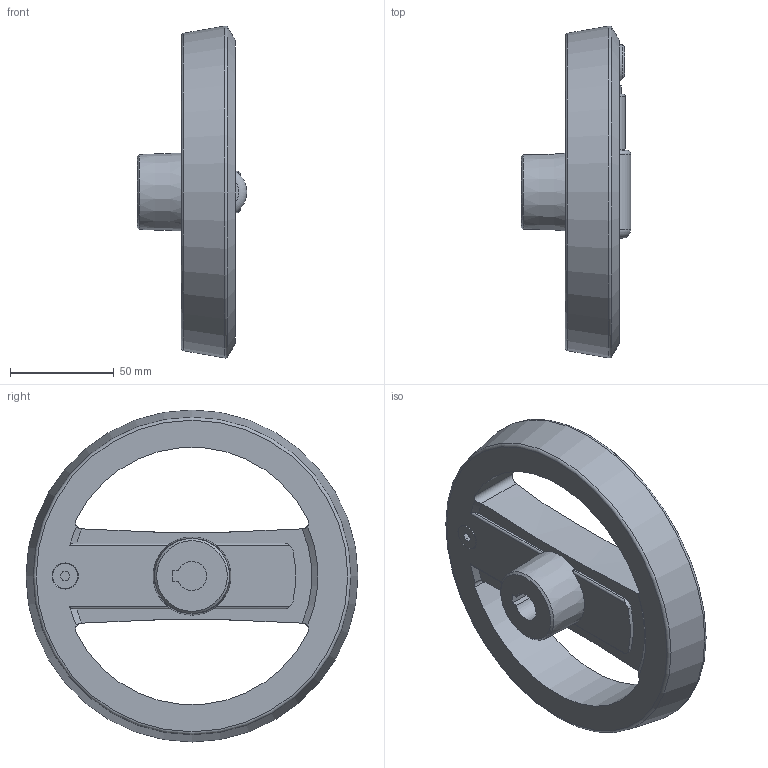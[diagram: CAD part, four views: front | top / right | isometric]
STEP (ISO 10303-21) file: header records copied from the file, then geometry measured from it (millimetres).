
FILE_DESCRIPTION( ( 'STEP AP203' ), '1' );
FILE_NAME( 'C:/Temp/Ganter_Step_05_03_2020/data/1_3/gn_924_7/gn_924_7_k/Handwheel with retractable handle GN 924.7-160-K14-R-SW (unactivated).stp', '2020-03-05T10:42:02', ( 'License CC BY-ND 4.0' ), ( 'CADENAS' ), ' ', 'PARTsolutions', ' ' );
FILE_SCHEMA( ( 'CONFIG_CONTROL_DESIGN' ) );
Length unit declared in the file: millimetre
Products named in the file (3): Handwheel with retractable handle GN 924.7-160-K14-R-SW (unactivated); _Umleggriff-Handrad GN 924.7-160-K14-R-SW-1; _Umleggriff-Handrad GN 924.7-160-K14-R-SW (0)-2
Assembly tree (2 placements, depth 2):
  Handwheel with retractable handle GN 924.7-160-K14-R-SW (unactivated)
    _Umleggriff-Handrad GN 924.7-160-K14-R-SW-1
    _Umleggriff-Handrad GN 924.7-160-K14-R-SW (0)-2
Bounding box: 52.7 x 159.68 x 159.68 mm (x, y, z)
Volume: 293712.1 mm3; surface area: 66111.6 mm2
Topology: 2 solids, 2 shells, 109 faces, 281 edges, 181 vertices
Faces by surface type: plane 45, cylinder 42, cone 12, torus 8, sphere 2
Full cylindrical faces by diameter (mm): 4 x4, 5 x1, 8 x1, 12 x1, 15 x1, 18.5 x1, 20 x1, 24 x1, 25 x1, 26.6 x1
Entity records: 3602 total; most frequent: CARTESIAN_POINT 999, DIRECTION 518, ORIENTED_EDGE 486, EDGE_CURVE 243, AXIS2_PLACEMENT_3D 214, VERTEX_POINT 175, EDGE_LOOP 151, FACE_OUTER_BOUND 129
